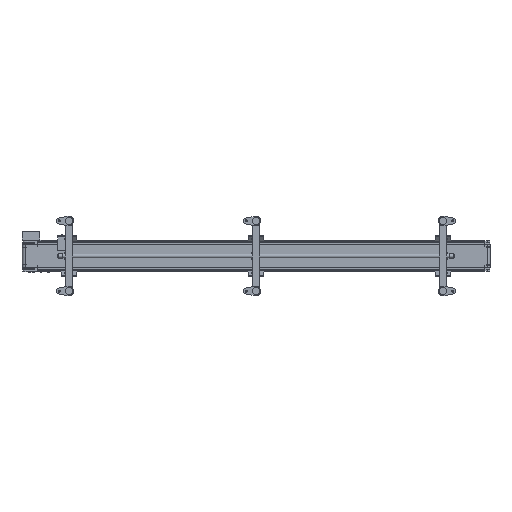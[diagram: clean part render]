
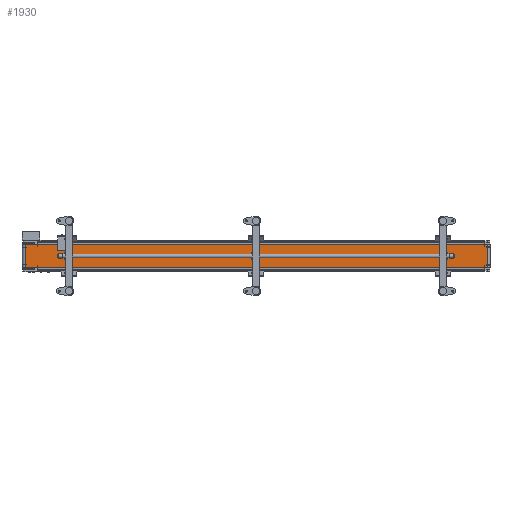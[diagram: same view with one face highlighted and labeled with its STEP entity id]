
A CAD part, front view. The second image highlights one B-rep face of the part: STEP entity #1930.
In plain terms, the highlighted planar face has unit normal (0.004, -1, 0).
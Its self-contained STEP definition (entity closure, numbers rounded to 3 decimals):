
#1930=ADVANCED_FACE('',(#4447),#4446,.F.);
#4446=PLANE('',#29449);
#4447=FACE_OUTER_BOUND('',#29450,.T.);
#29446=CARTESIAN_POINT('',(2996.054,-26.763,-85.));
#29447=DIRECTION('',(-0.004,1.,0.));
#29448=DIRECTION('',(-1.,-0.004,0.));
#29449=AXIS2_PLACEMENT_3D('',#29446,#29447,#29448);
#29450=EDGE_LOOP('',(#43069,#43070,#43071,#43072));
#43069=ORIENTED_EDGE('',*,*,#55452,.T.);
#43070=ORIENTED_EDGE('',*,*,#55446,.F.);
#43071=ORIENTED_EDGE('',*,*,#55447,.F.);
#43072=ORIENTED_EDGE('',*,*,#55442,.T.);
#55442=EDGE_CURVE('',#61670,#61663,#61671,.T.);
#55446=EDGE_CURVE('',#61690,#61683,#61697,.T.);
#55447=EDGE_CURVE('',#61670,#61690,#61703,.T.);
#55452=EDGE_CURVE('',#61663,#61683,#61737,.T.);
#61663=VERTEX_POINT('',#102869);
#61670=VERTEX_POINT('',#102874);
#61671=LINE('',#102875,#102876);
#61683=VERTEX_POINT('',#102882);
#61690=VERTEX_POINT('',#102887);
#61697=LINE('',#102892,#102893);
#61703=LINE('',#102895,#102896);
#61737=LINE('',#102916,#102917);
#102869=CARTESIAN_POINT('',(19.502,-37.7,-75.));
#102874=CARTESIAN_POINT('',(19.502,-37.7,75.));
#102875=CARTESIAN_POINT('',(19.502,-37.7,75.));
#102876=VECTOR('',#102877,150.);
#102877=DIRECTION('',(0.,0.,-1.));
#102882=CARTESIAN_POINT('',(2986.054,-26.8,-75.));
#102887=CARTESIAN_POINT('',(2986.054,-26.8,75.));
#102892=CARTESIAN_POINT('',(2986.054,-26.8,75.));
#102893=VECTOR('',#102894,150.);
#102894=DIRECTION('',(0.,0.,-1.));
#102895=CARTESIAN_POINT('',(19.502,-37.7,75.));
#102896=VECTOR('',#102897,2966.572);
#102897=DIRECTION('',(1.,0.004,0.));
#102916=CARTESIAN_POINT('',(19.502,-37.7,-75.));
#102917=VECTOR('',#102918,2966.572);
#102918=DIRECTION('',(1.,0.004,0.));
